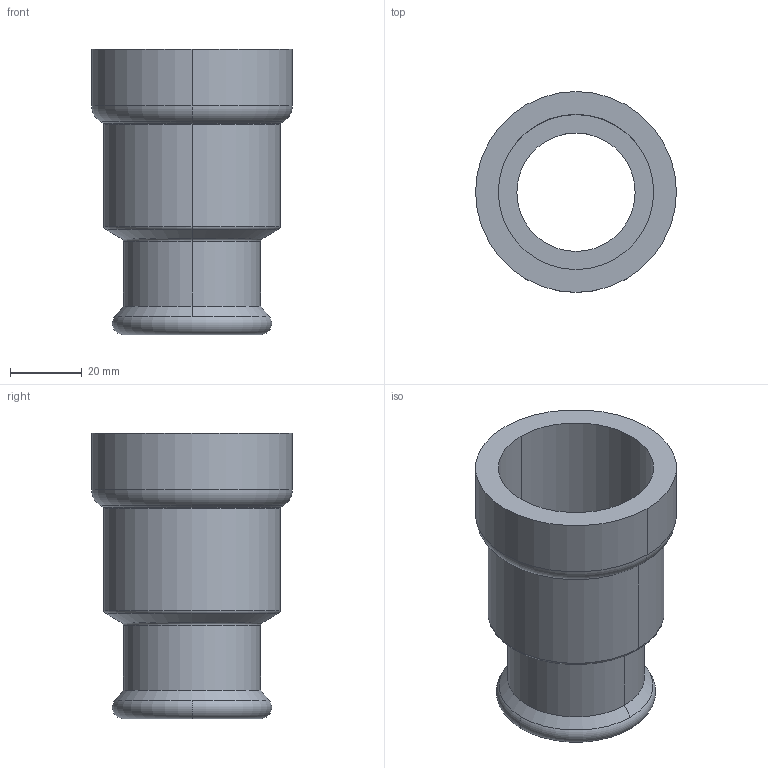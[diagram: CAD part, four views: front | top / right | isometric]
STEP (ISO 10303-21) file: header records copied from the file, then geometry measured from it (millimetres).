
FILE_DESCRIPTION(('Creo Elements/Direct Modeling STEP Export'),'2;1');
FILE_NAME('C9441_1-1-4_35.stp','2020-07-20T14:02:43',(''),(''),'PTC Creo Elements/Direct Modeling STEP processor for AP214 (Solid Model)','PTC Creo Elements/Direct Modeling 19.0C 15-Aug-2015 (C) Parametric Technology GmbH','');
FILE_SCHEMA(('AUTOMOTIVE_DESIGN { 1 0 10303 214 1 1 1 1 }'));
Length unit declared in the file: millimetre
Products named in the file (1): C9441_1-1-4_35
Bounding box: 56 x 56 x 79.52 mm (x, y, z)
Volume: 41149 mm3; surface area: 24737.7 mm2
Topology: 1 solids, 1 shells, 32 faces, 75 edges, 47 vertices
Faces by surface type: cylinder 12, torus 10, cone 6, plane 4
Entity records: 825 total; most frequent: ORIENTED_EDGE 150, DIRECTION 140, CARTESIAN_POINT 126, EDGE_CURVE 75, AXIS2_PLACEMENT_3D 61, VERTEX_POINT 47, EDGE_LOOP 36, FACE_OUTER_BOUND 32
